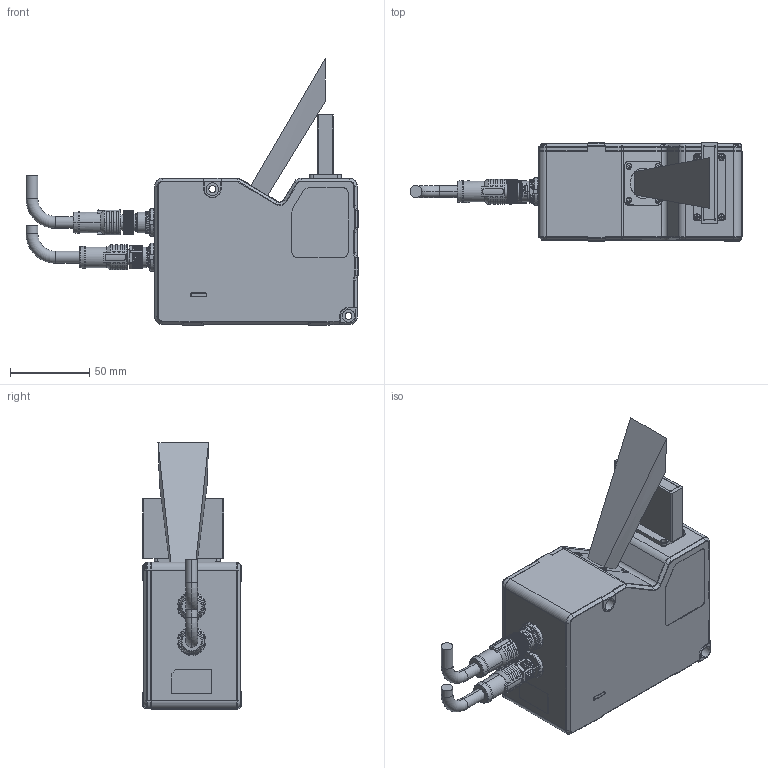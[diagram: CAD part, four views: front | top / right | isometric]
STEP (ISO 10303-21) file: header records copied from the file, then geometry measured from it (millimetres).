
FILE_DESCRIPTION((''),'2;1');
FILE_NAME('MV-DP3060-01PS','2026-04-27T17:07:26',('liudeting'),(''),'CREO PARAMETRIC BY PTC INC, 2020044','CREO PARAMETRIC BY PTC INC, 2020044','');
FILE_SCHEMA(('CONFIG_CONTROL_DESIGN'));
Products named in the file (1): MV-DP3060-01PS
Bounding box: 209.75 x 62 x 168.5 mm (x, y, z)
Surface area: 73668.8 mm2 (no closed solid volume)
Topology: 0 solids, 87 shells, 1473 faces, 4929 edges, 3477 vertices
Faces by surface type: plane 749, cylinder 446, cone 134, torus 113, bspline 31
Entity records: 71973 total; most frequent: CARTESIAN_POINT 30440, DIRECTION 8599, ORIENTED_EDGE 7889, EDGE_CURVE 4919, VERTEX_POINT 3477, AXIS2_PLACEMENT_3D 3025, VECTOR 2549, LINE 2549
